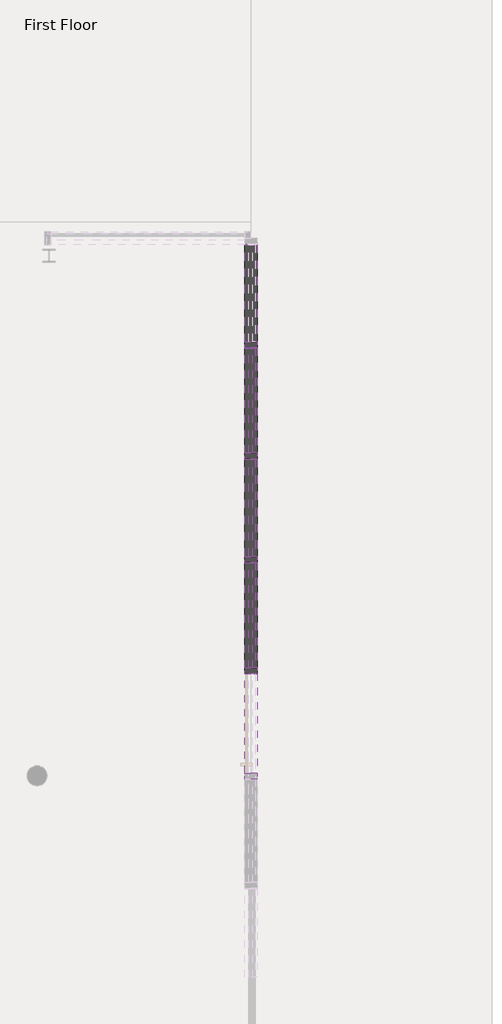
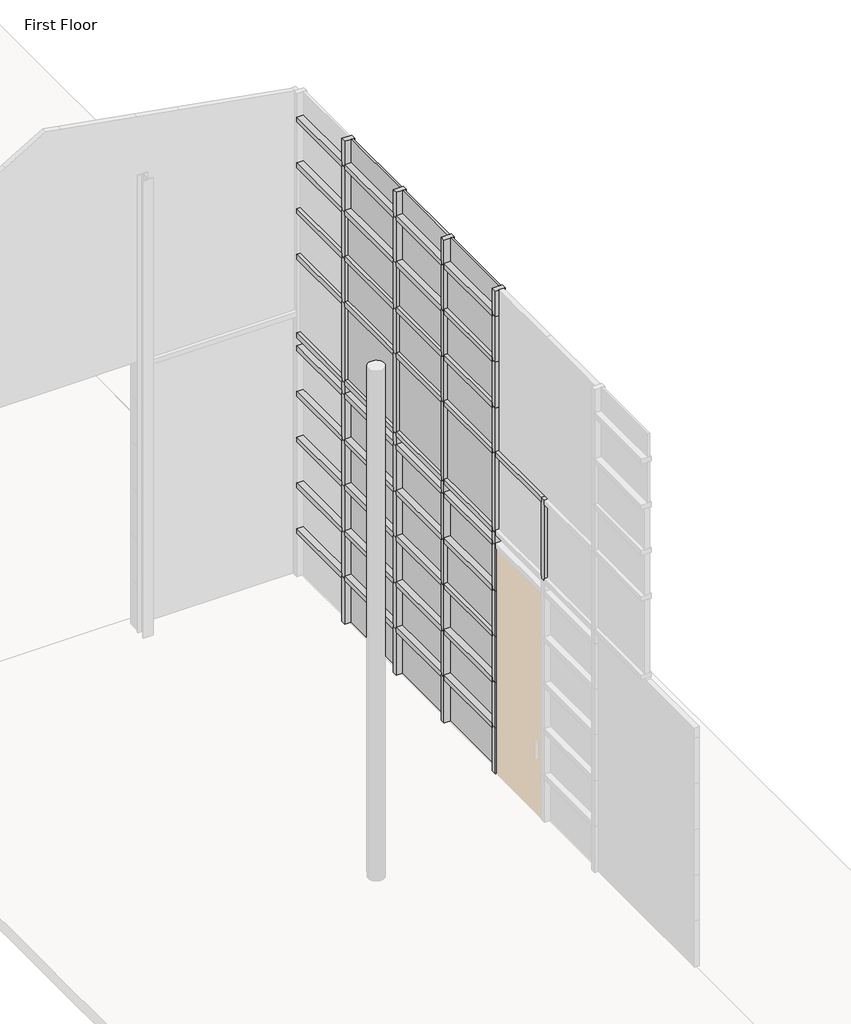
# One storey, part 6 of 9: 86 members, 33 plates.
"""IFC4 building model written with IfcOpenShell, lengths in millimetres."""

from ifc_helpers import new_model, si_unit, origin, place, context, project, spatial, transform, mapped, element, save
from components import rectangular_mullion_rectangular_mullion_1_6590179b, rectangular_mullion_rectangular_mullion_1_783bfc0b, rectangular_mullion_rectangular_mullion_1_1f17a5e5, rectangular_mullion_rectangular_mullion_1_8247c789, rectangular_mullion_rectangular_mullion_1_6e77e263, rectangular_mullion_rectangular_mullion_1_342b4b78, rectangular_mullion_rectangular_mullion_1_ec152034, rectangular_mullion_rectangular_mullion_1_158ba3e1, rectangular_mullion_rectangular_mullion_1_d7ed0fb9, rectangular_mullion_rectangular_mullion_1_f2e3b31c, system_panel_glazed_c7baee26, system_panel_glazed_10c68863, system_panel_glazed_a26f2a3d, system_panel_glazed_f3b84d7e, system_panel_glazed_9fecdc1a, system_panel_glazed_703e904c, system_panel_glazed_5698b928, system_panel_glazed_677bec21, system_panel_glazed_fd039e31, system_panel_glazed_8b3f1d98, system_panel_glazed_dff80833, system_panel_glazed_a1854eb2, system_panel_solid_red_6fdfdeec, system_panel_solid_white_afa84dc3, system_panel_solid_white_9f51102d, system_panel_solid_white_62dc0654, system_panel_wood_976f854f, system_panel_wood_6b220d8b

model = new_model("IFC4")

# Units and contexts
model_context = context("Model", 3, world=origin())
ifc_project = project(units=[si_unit("LENGTHUNIT", "METRE", prefix="MILLI")], contexts=[model_context])

# Site, building, storey
site = spatial("IfcSite", under=ifc_project)
building = spatial("IfcBuilding", under=site)
storey = spatial("IfcBuildingStorey", under=building, Name="First Floor", Elevation=0.0)

# Members
placement = place(None, origin())
rectangular_mullion_rectangular_mullion_1_shape = rectangular_mullion_rectangular_mullion_1_6590179b(model_context)
element("IfcMember", 1, ObjectType="Rectangular Mullion : Rectangular Mullion 1", at=placement, inside=storey, context=model_context, shape_type="MappedRepresentation", body=[
    mapped(rectangular_mullion_rectangular_mullion_1_shape, transform((8.2598336, 14551.2870297, 3219.3104781), x_axis=(0.0, -1.0, 0.0), y_axis=(-1.0, 0.0, 0.0), z_axis=(0.0, 0.0, -1.0))),
])
element("IfcMember", 2, ObjectType="Rectangular Mullion : Rectangular Mullion 1", at=placement, inside=storey, context=model_context, shape_type="MappedRepresentation", body=[
    mapped(rectangular_mullion_rectangular_mullion_1_shape, transform((8.2598336, 12383.2156011, 3219.3104781), x_axis=(0.0, -1.0, 0.0), y_axis=(-1.0, 0.0, 0.0), z_axis=(0.0, 0.0, -1.0))),
])
element("IfcMember", 3, ObjectType="Rectangular Mullion : Rectangular Mullion 1", at=placement, inside=storey, context=model_context, shape_type="MappedRepresentation", body=[
    mapped(rectangular_mullion_rectangular_mullion_1_shape, transform((8.2598336, 13503.5370297, 3219.3104781), x_axis=(0.0, -1.0, 0.0), y_axis=(-1.0, 0.0, 0.0), z_axis=(0.0, 0.0, -1.0))),
])
element("IfcMember", 4, ObjectType="Rectangular Mullion : Rectangular Mullion 1", at=placement, inside=storey, context=model_context, shape_type="MappedRepresentation", body=[
    mapped(rectangular_mullion_rectangular_mullion_1_shape, transform((8.2598336, 15673.8763154, 3219.3104781), x_axis=(0.0, -1.0, 0.0), y_axis=(-1.0, 0.0, 0.0), z_axis=(0.0, 0.0, -1.0))),
])
rectangular_mullion_rectangular_mullion_1_2_shape = rectangular_mullion_rectangular_mullion_1_783bfc0b(model_context)
element("IfcMember", 5, ObjectType="Rectangular Mullion : Rectangular Mullion 1", at=placement, inside=storey, context=model_context, shape_type="MappedRepresentation", body=[
    mapped(rectangular_mullion_rectangular_mullion_1_2_shape, transform((8.2598336, 15673.8763154, 3048.0), x_axis=(0.0, -1.0, 0.0), y_axis=(-1.0, 0.0, 0.0), z_axis=(0.0, 0.0, -1.0))),
])
element("IfcMember", 6, ObjectType="Rectangular Mullion : Rectangular Mullion 1", at=placement, inside=storey, context=model_context, shape_type="MappedRepresentation", body=[
    mapped(rectangular_mullion_rectangular_mullion_1_2_shape, transform((8.2598336, 14551.2870297, 3048.0), x_axis=(0.0, -1.0, 0.0), y_axis=(-1.0, 0.0, 0.0), z_axis=(0.0, 0.0, -1.0))),
])
element("IfcMember", 7, ObjectType="Rectangular Mullion : Rectangular Mullion 1", at=placement, inside=storey, context=model_context, shape_type="MappedRepresentation", body=[
    mapped(rectangular_mullion_rectangular_mullion_1_2_shape, transform((8.2598336, 13503.5370297, 3048.0), x_axis=(0.0, -1.0, 0.0), y_axis=(-1.0, 0.0, 0.0), z_axis=(0.0, 0.0, -1.0))),
])
element("IfcMember", 8, ObjectType="Rectangular Mullion : Rectangular Mullion 1", at=placement, inside=storey, context=model_context, shape_type="MappedRepresentation", body=[
    mapped(rectangular_mullion_rectangular_mullion_1_2_shape, transform((8.2598336, 12383.2156011, 3048.0), x_axis=(0.0, -1.0, 0.0), y_axis=(-1.0, 0.0, 0.0), z_axis=(0.0, 0.0, -1.0))),
])
rectangular_mullion_rectangular_mullion_1_3_shape = rectangular_mullion_rectangular_mullion_1_1f17a5e5(model_context)
element("IfcMember", 9, ObjectType="Rectangular Mullion : Rectangular Mullion 1", at=placement, inside=storey, context=model_context, shape_type="MappedRepresentation", body=[
    mapped(rectangular_mullion_rectangular_mullion_1_3_shape, transform((8.2598336, 15673.8763154, 6096.0), x_axis=(0.0, -1.0, 0.0), y_axis=(-1.0, 0.0, 0.0), z_axis=(0.0, 0.0, -1.0))),
])
element("IfcMember", 10, ObjectType="Rectangular Mullion : Rectangular Mullion 1", at=placement, inside=storey, context=model_context, shape_type="MappedRepresentation", body=[
    mapped(rectangular_mullion_rectangular_mullion_1_3_shape, transform((8.2598336, 14551.2870297, 6096.0), x_axis=(0.0, -1.0, 0.0), y_axis=(-1.0, 0.0, 0.0), z_axis=(0.0, 0.0, -1.0))),
])
element("IfcMember", 11, ObjectType="Rectangular Mullion : Rectangular Mullion 1", at=placement, inside=storey, context=model_context, shape_type="MappedRepresentation", body=[
    mapped(rectangular_mullion_rectangular_mullion_1_3_shape, transform((8.2598336, 13503.5370297, 6096.0), x_axis=(0.0, -1.0, 0.0), y_axis=(-1.0, 0.0, 0.0), z_axis=(0.0, 0.0, -1.0))),
])
element("IfcMember", 12, ObjectType="Rectangular Mullion : Rectangular Mullion 1", at=placement, inside=storey, context=model_context, shape_type="MappedRepresentation", body=[
    mapped(rectangular_mullion_rectangular_mullion_1_3_shape, transform((8.2598336, 12383.2156011, 6096.0), x_axis=(0.0, -1.0, 0.0), y_axis=(-1.0, 0.0, 0.0), z_axis=(0.0, 0.0, -1.0))),
])
rectangular_mullion_rectangular_mullion_1_4_shape = rectangular_mullion_rectangular_mullion_1_8247c789(model_context)
element("IfcMember", 13, ObjectType="Rectangular Mullion : Rectangular Mullion 1", at=placement, inside=storey, context=model_context, shape_type="MappedRepresentation", body=[
    mapped(rectangular_mullion_rectangular_mullion_1_4_shape, transform((8.2598336, 11317.322744, 3219.3104781), x_axis=(0.0, -1.0, 0.0), y_axis=(-1.0, 0.0, 0.0), z_axis=(0.0, 0.0, -1.0))),
])
rectangular_mullion_rectangular_mullion_1_5_shape = rectangular_mullion_rectangular_mullion_1_6e77e263(model_context)
element("IfcMember", 14, ObjectType="Rectangular Mullion : Rectangular Mullion 1", at=placement, inside=storey, context=model_context, shape_type="MappedRepresentation", body=[
    mapped(rectangular_mullion_rectangular_mullion_1_5_shape, transform((8.2598336, 15673.8763154, 2438.4), x_axis=(0.0, -1.0, 0.0), y_axis=(-1.0, 0.0, 0.0), z_axis=(0.0, 0.0, -1.0))),
])
element("IfcMember", 15, ObjectType="Rectangular Mullion : Rectangular Mullion 1", at=placement, inside=storey, context=model_context, shape_type="MappedRepresentation", body=[
    mapped(rectangular_mullion_rectangular_mullion_1_5_shape, transform((8.2598336, 14551.2870297, 2438.4), x_axis=(0.0, -1.0, 0.0), y_axis=(-1.0, 0.0, 0.0), z_axis=(0.0, 0.0, -1.0))),
])
element("IfcMember", 16, ObjectType="Rectangular Mullion : Rectangular Mullion 1", at=placement, inside=storey, context=model_context, shape_type="MappedRepresentation", body=[
    mapped(rectangular_mullion_rectangular_mullion_1_5_shape, transform((8.2598336, 13503.5370297, 2438.4), x_axis=(0.0, -1.0, 0.0), y_axis=(-1.0, 0.0, 0.0), z_axis=(0.0, 0.0, -1.0))),
])
element("IfcMember", 17, ObjectType="Rectangular Mullion : Rectangular Mullion 1", at=placement, inside=storey, context=model_context, shape_type="MappedRepresentation", body=[
    mapped(rectangular_mullion_rectangular_mullion_1_5_shape, transform((8.2598336, 12383.2156011, 2438.4), x_axis=(0.0, -1.0, 0.0), y_axis=(-1.0, 0.0, 0.0), z_axis=(0.0, 0.0, -1.0))),
])
element("IfcMember", 18, ObjectType="Rectangular Mullion : Rectangular Mullion 1", at=placement, inside=storey, context=model_context, shape_type="MappedRepresentation", body=[
    mapped(rectangular_mullion_rectangular_mullion_1_5_shape, transform((8.2598336, 15673.8763154, 1219.2), x_axis=(0.0, -1.0, 0.0), y_axis=(-1.0, 0.0, 0.0), z_axis=(0.0, 0.0, -1.0))),
])
element("IfcMember", 19, ObjectType="Rectangular Mullion : Rectangular Mullion 1", at=placement, inside=storey, context=model_context, shape_type="MappedRepresentation", body=[
    mapped(rectangular_mullion_rectangular_mullion_1_5_shape, transform((8.2598336, 14551.2870297, 1219.2), x_axis=(0.0, -1.0, 0.0), y_axis=(-1.0, 0.0, 0.0), z_axis=(0.0, 0.0, -1.0))),
])
element("IfcMember", 20, ObjectType="Rectangular Mullion : Rectangular Mullion 1", at=placement, inside=storey, context=model_context, shape_type="MappedRepresentation", body=[
    mapped(rectangular_mullion_rectangular_mullion_1_5_shape, transform((8.2598336, 13503.5370297, 1219.2), x_axis=(0.0, -1.0, 0.0), y_axis=(-1.0, 0.0, 0.0), z_axis=(0.0, 0.0, -1.0))),
])
element("IfcMember", 21, ObjectType="Rectangular Mullion : Rectangular Mullion 1", at=placement, inside=storey, context=model_context, shape_type="MappedRepresentation", body=[
    mapped(rectangular_mullion_rectangular_mullion_1_5_shape, transform((8.2598336, 12383.2156011, 1219.2), x_axis=(0.0, -1.0, 0.0), y_axis=(-1.0, 0.0, 0.0), z_axis=(0.0, 0.0, -1.0))),
])
element("IfcMember", 22, ObjectType="Rectangular Mullion : Rectangular Mullion 1", at=placement, inside=storey, context=model_context, shape_type="MappedRepresentation", body=[
    mapped(rectangular_mullion_rectangular_mullion_1_5_shape, transform((8.2598336, 15673.8763154, 1828.8), x_axis=(0.0, -1.0, 0.0), y_axis=(-1.0, 0.0, 0.0), z_axis=(0.0, 0.0, -1.0))),
])
element("IfcMember", 23, ObjectType="Rectangular Mullion : Rectangular Mullion 1", at=placement, inside=storey, context=model_context, shape_type="MappedRepresentation", body=[
    mapped(rectangular_mullion_rectangular_mullion_1_5_shape, transform((8.2598336, 14551.2870297, 1828.8), x_axis=(0.0, -1.0, 0.0), y_axis=(-1.0, 0.0, 0.0), z_axis=(0.0, 0.0, -1.0))),
])
element("IfcMember", 24, ObjectType="Rectangular Mullion : Rectangular Mullion 1", at=placement, inside=storey, context=model_context, shape_type="MappedRepresentation", body=[
    mapped(rectangular_mullion_rectangular_mullion_1_5_shape, transform((8.2598336, 13503.5370297, 1828.8), x_axis=(0.0, -1.0, 0.0), y_axis=(-1.0, 0.0, 0.0), z_axis=(0.0, 0.0, -1.0))),
])
element("IfcMember", 25, ObjectType="Rectangular Mullion : Rectangular Mullion 1", at=placement, inside=storey, context=model_context, shape_type="MappedRepresentation", body=[
    mapped(rectangular_mullion_rectangular_mullion_1_5_shape, transform((8.2598336, 12383.2156011, 1828.8), x_axis=(0.0, -1.0, 0.0), y_axis=(-1.0, 0.0, 0.0), z_axis=(0.0, 0.0, -1.0))),
])
element("IfcMember", 26, ObjectType="Rectangular Mullion : Rectangular Mullion 1", at=placement, inside=storey, context=model_context, shape_type="MappedRepresentation", body=[
    mapped(rectangular_mullion_rectangular_mullion_1_5_shape, transform((8.2598336, 15673.8763154, 609.6), x_axis=(0.0, -1.0, 0.0), y_axis=(-1.0, 0.0, 0.0), z_axis=(0.0, 0.0, -1.0))),
])
element("IfcMember", 27, ObjectType="Rectangular Mullion : Rectangular Mullion 1", at=placement, inside=storey, context=model_context, shape_type="MappedRepresentation", body=[
    mapped(rectangular_mullion_rectangular_mullion_1_5_shape, transform((8.2598336, 14551.2870297, 609.6), x_axis=(0.0, -1.0, 0.0), y_axis=(-1.0, 0.0, 0.0), z_axis=(0.0, 0.0, -1.0))),
])
element("IfcMember", 28, ObjectType="Rectangular Mullion : Rectangular Mullion 1", at=placement, inside=storey, context=model_context, shape_type="MappedRepresentation", body=[
    mapped(rectangular_mullion_rectangular_mullion_1_5_shape, transform((8.2598336, 13503.5370297, 609.6), x_axis=(0.0, -1.0, 0.0), y_axis=(-1.0, 0.0, 0.0), z_axis=(0.0, 0.0, -1.0))),
])
element("IfcMember", 29, ObjectType="Rectangular Mullion : Rectangular Mullion 1", at=placement, inside=storey, context=model_context, shape_type="MappedRepresentation", body=[
    mapped(rectangular_mullion_rectangular_mullion_1_5_shape, transform((8.2598336, 12383.2156011, 609.6), x_axis=(0.0, -1.0, 0.0), y_axis=(-1.0, 0.0, 0.0), z_axis=(0.0, 0.0, -1.0))),
])
element("IfcMember", 30, ObjectType="Rectangular Mullion : Rectangular Mullion 1", at=placement, inside=storey, context=model_context, shape_type="MappedRepresentation", body=[
    mapped(rectangular_mullion_rectangular_mullion_1_5_shape, transform((8.2598336, 15673.8763154, 4876.8), x_axis=(0.0, -1.0, 0.0), y_axis=(-1.0, 0.0, 0.0), z_axis=(0.0, 0.0, -1.0))),
])
element("IfcMember", 31, ObjectType="Rectangular Mullion : Rectangular Mullion 1", at=placement, inside=storey, context=model_context, shape_type="MappedRepresentation", body=[
    mapped(rectangular_mullion_rectangular_mullion_1_5_shape, transform((8.2598336, 14551.2870297, 4876.8), x_axis=(0.0, -1.0, 0.0), y_axis=(-1.0, 0.0, 0.0), z_axis=(0.0, 0.0, -1.0))),
])
element("IfcMember", 32, ObjectType="Rectangular Mullion : Rectangular Mullion 1", at=placement, inside=storey, context=model_context, shape_type="MappedRepresentation", body=[
    mapped(rectangular_mullion_rectangular_mullion_1_5_shape, transform((8.2598336, 13503.5370297, 4876.8), x_axis=(0.0, -1.0, 0.0), y_axis=(-1.0, 0.0, 0.0), z_axis=(0.0, 0.0, -1.0))),
])
element("IfcMember", 33, ObjectType="Rectangular Mullion : Rectangular Mullion 1", at=placement, inside=storey, context=model_context, shape_type="MappedRepresentation", body=[
    mapped(rectangular_mullion_rectangular_mullion_1_5_shape, transform((8.2598336, 12383.2156011, 4876.8), x_axis=(0.0, -1.0, 0.0), y_axis=(-1.0, 0.0, 0.0), z_axis=(0.0, 0.0, -1.0))),
])
element("IfcMember", 34, ObjectType="Rectangular Mullion : Rectangular Mullion 1", at=placement, inside=storey, context=model_context, shape_type="MappedRepresentation", body=[
    mapped(rectangular_mullion_rectangular_mullion_1_5_shape, transform((8.2598336, 15673.8763154, 5486.4), x_axis=(0.0, -1.0, 0.0), y_axis=(-1.0, 0.0, 0.0), z_axis=(0.0, 0.0, -1.0))),
])
element("IfcMember", 35, ObjectType="Rectangular Mullion : Rectangular Mullion 1", at=placement, inside=storey, context=model_context, shape_type="MappedRepresentation", body=[
    mapped(rectangular_mullion_rectangular_mullion_1_5_shape, transform((8.2598336, 14551.2870297, 5486.4), x_axis=(0.0, -1.0, 0.0), y_axis=(-1.0, 0.0, 0.0), z_axis=(0.0, 0.0, -1.0))),
])
element("IfcMember", 36, ObjectType="Rectangular Mullion : Rectangular Mullion 1", at=placement, inside=storey, context=model_context, shape_type="MappedRepresentation", body=[
    mapped(rectangular_mullion_rectangular_mullion_1_5_shape, transform((8.2598336, 13503.5370297, 5486.4), x_axis=(0.0, -1.0, 0.0), y_axis=(-1.0, 0.0, 0.0), z_axis=(0.0, 0.0, -1.0))),
])
element("IfcMember", 37, ObjectType="Rectangular Mullion : Rectangular Mullion 1", at=placement, inside=storey, context=model_context, shape_type="MappedRepresentation", body=[
    mapped(rectangular_mullion_rectangular_mullion_1_5_shape, transform((8.2598336, 12383.2156011, 5486.4), x_axis=(0.0, -1.0, 0.0), y_axis=(-1.0, 0.0, 0.0), z_axis=(0.0, 0.0, -1.0))),
])
element("IfcMember", 38, ObjectType="Rectangular Mullion : Rectangular Mullion 1", at=placement, inside=storey, context=model_context, shape_type="MappedRepresentation", body=[
    mapped(rectangular_mullion_rectangular_mullion_1_5_shape, transform((8.2598336, 15673.8763154, 4267.2), x_axis=(0.0, -1.0, 0.0), y_axis=(-1.0, 0.0, 0.0), z_axis=(0.0, 0.0, -1.0))),
])
element("IfcMember", 39, ObjectType="Rectangular Mullion : Rectangular Mullion 1", at=placement, inside=storey, context=model_context, shape_type="MappedRepresentation", body=[
    mapped(rectangular_mullion_rectangular_mullion_1_5_shape, transform((8.2598336, 14551.2870297, 4267.2), x_axis=(0.0, -1.0, 0.0), y_axis=(-1.0, 0.0, 0.0), z_axis=(0.0, 0.0, -1.0))),
])
element("IfcMember", 40, ObjectType="Rectangular Mullion : Rectangular Mullion 1", at=placement, inside=storey, context=model_context, shape_type="MappedRepresentation", body=[
    mapped(rectangular_mullion_rectangular_mullion_1_5_shape, transform((8.2598336, 13503.5370297, 4267.2), x_axis=(0.0, -1.0, 0.0), y_axis=(-1.0, 0.0, 0.0), z_axis=(0.0, 0.0, -1.0))),
])
element("IfcMember", 41, ObjectType="Rectangular Mullion : Rectangular Mullion 1", at=placement, inside=storey, context=model_context, shape_type="MappedRepresentation", body=[
    mapped(rectangular_mullion_rectangular_mullion_1_5_shape, transform((8.2598336, 12383.2156011, 4267.2), x_axis=(0.0, -1.0, 0.0), y_axis=(-1.0, 0.0, 0.0), z_axis=(0.0, 0.0, -1.0))),
])
element("IfcMember", 42, ObjectType="Rectangular Mullion : Rectangular Mullion 1", at=placement, inside=storey, context=model_context, shape_type="MappedRepresentation", body=[
    mapped(rectangular_mullion_rectangular_mullion_1_5_shape, transform((8.2598336, 14551.2870297, 0.0), x_axis=(0.0, -1.0, 0.0), y_axis=(-1.0, 0.0, 0.0), z_axis=(0.0, 0.0, -1.0))),
])
element("IfcMember", 43, ObjectType="Rectangular Mullion : Rectangular Mullion 1", at=placement, inside=storey, context=model_context, shape_type="MappedRepresentation", body=[
    mapped(rectangular_mullion_rectangular_mullion_1_5_shape, transform((8.2598336, 12383.2156011, 0.0), x_axis=(0.0, -1.0, 0.0), y_axis=(-1.0, 0.0, 0.0), z_axis=(0.0, 0.0, -1.0))),
])
element("IfcMember", 44, ObjectType="Rectangular Mullion : Rectangular Mullion 1", at=placement, inside=storey, context=model_context, shape_type="MappedRepresentation", body=[
    mapped(rectangular_mullion_rectangular_mullion_1_5_shape, transform((8.2598336, 13503.5370297, 0.0), x_axis=(0.0, -1.0, 0.0), y_axis=(-1.0, 0.0, 0.0), z_axis=(0.0, 0.0, -1.0))),
])
element("IfcMember", 45, ObjectType="Rectangular Mullion : Rectangular Mullion 1", at=placement, inside=storey, context=model_context, shape_type="MappedRepresentation", body=[
    mapped(rectangular_mullion_rectangular_mullion_1_5_shape, transform((8.2598336, 15673.8763154, 0.0), x_axis=(0.0, -1.0, 0.0), y_axis=(-1.0, 0.0, 0.0), z_axis=(0.0, 0.0, -1.0))),
])
rectangular_mullion_rectangular_mullion_1_6_shape = rectangular_mullion_rectangular_mullion_1_342b4b78(model_context)
element("IfcMember", 46, ObjectType="Rectangular Mullion : Rectangular Mullion 1", at=placement, inside=storey, context=model_context, shape_type="MappedRepresentation", body=[
    mapped(rectangular_mullion_rectangular_mullion_1_6_shape, transform((8.2598336, 13535.2870297, 3219.3104781), x_axis=(0.0, 0.0, 1.0), y_axis=(-1.0, 0.0, 0.0), z_axis=(0.0, -1.0, 0.0))),
])
element("IfcMember", 47, ObjectType="Rectangular Mullion : Rectangular Mullion 1", at=placement, inside=storey, context=model_context, shape_type="MappedRepresentation", body=[
    mapped(rectangular_mullion_rectangular_mullion_1_6_shape, transform((8.2598336, 13535.2870297, 2438.4), x_axis=(0.0, 0.0, 1.0), y_axis=(-1.0, 0.0, 0.0), z_axis=(0.0, -1.0, 0.0))),
])
element("IfcMember", 48, ObjectType="Rectangular Mullion : Rectangular Mullion 1", at=placement, inside=storey, context=model_context, shape_type="MappedRepresentation", body=[
    mapped(rectangular_mullion_rectangular_mullion_1_6_shape, transform((8.2598336, 13535.2870297, 1219.2), x_axis=(0.0, 0.0, 1.0), y_axis=(-1.0, 0.0, 0.0), z_axis=(0.0, -1.0, 0.0))),
])
element("IfcMember", 49, ObjectType="Rectangular Mullion : Rectangular Mullion 1", at=placement, inside=storey, context=model_context, shape_type="MappedRepresentation", body=[
    mapped(rectangular_mullion_rectangular_mullion_1_6_shape, transform((8.2598336, 13535.2870297, 3048.0), x_axis=(0.0, 0.0, 1.0), y_axis=(-1.0, 0.0, 0.0), z_axis=(0.0, -1.0, 0.0))),
])
element("IfcMember", 50, ObjectType="Rectangular Mullion : Rectangular Mullion 1", at=placement, inside=storey, context=model_context, shape_type="MappedRepresentation", body=[
    mapped(rectangular_mullion_rectangular_mullion_1_6_shape, transform((8.2598336, 13535.2870297, 1828.8), x_axis=(0.0, 0.0, 1.0), y_axis=(-1.0, 0.0, 0.0), z_axis=(0.0, -1.0, 0.0))),
])
element("IfcMember", 51, ObjectType="Rectangular Mullion : Rectangular Mullion 1", at=placement, inside=storey, context=model_context, shape_type="MappedRepresentation", body=[
    mapped(rectangular_mullion_rectangular_mullion_1_6_shape, transform((8.2598336, 13535.2870297, 609.6), x_axis=(0.0, 0.0, 1.0), y_axis=(-1.0, 0.0, 0.0), z_axis=(0.0, -1.0, 0.0))),
])
element("IfcMember", 52, ObjectType="Rectangular Mullion : Rectangular Mullion 1", at=placement, inside=storey, context=model_context, shape_type="MappedRepresentation", body=[
    mapped(rectangular_mullion_rectangular_mullion_1_6_shape, transform((8.2598336, 13535.2870297, 6096.0), x_axis=(0.0, 0.0, 1.0), y_axis=(-1.0, 0.0, 0.0), z_axis=(0.0, -1.0, 0.0))),
])
element("IfcMember", 53, ObjectType="Rectangular Mullion : Rectangular Mullion 1", at=placement, inside=storey, context=model_context, shape_type="MappedRepresentation", body=[
    mapped(rectangular_mullion_rectangular_mullion_1_6_shape, transform((8.2598336, 13535.2870297, 4876.8), x_axis=(0.0, 0.0, 1.0), y_axis=(-1.0, 0.0, 0.0), z_axis=(0.0, -1.0, 0.0))),
])
element("IfcMember", 54, ObjectType="Rectangular Mullion : Rectangular Mullion 1", at=placement, inside=storey, context=model_context, shape_type="MappedRepresentation", body=[
    mapped(rectangular_mullion_rectangular_mullion_1_6_shape, transform((8.2598336, 13535.2870297, 5486.4), x_axis=(0.0, 0.0, 1.0), y_axis=(-1.0, 0.0, 0.0), z_axis=(0.0, -1.0, 0.0))),
])
element("IfcMember", 55, ObjectType="Rectangular Mullion : Rectangular Mullion 1", at=placement, inside=storey, context=model_context, shape_type="MappedRepresentation", body=[
    mapped(rectangular_mullion_rectangular_mullion_1_6_shape, transform((8.2598336, 13535.2870297, 4267.2), x_axis=(0.0, 0.0, 1.0), y_axis=(-1.0, 0.0, 0.0), z_axis=(0.0, -1.0, 0.0))),
])
rectangular_mullion_rectangular_mullion_1_7_shape = rectangular_mullion_rectangular_mullion_1_ec152034(model_context)
element("IfcMember", 56, ObjectType="Rectangular Mullion : Rectangular Mullion 1", at=placement, inside=storey, context=model_context, shape_type="MappedRepresentation", body=[
    mapped(rectangular_mullion_rectangular_mullion_1_7_shape, transform((8.2598336, 11349.072744, 4267.2), x_axis=(0.0, 0.0, 1.0), y_axis=(-1.0, 0.0, 0.0), z_axis=(0.0, -1.0, 0.0))),
])
rectangular_mullion_rectangular_mullion_1_8_shape = rectangular_mullion_rectangular_mullion_1_158ba3e1(model_context)
element("IfcMember", 57, ObjectType="Rectangular Mullion : Rectangular Mullion 1", at=placement, inside=storey, context=model_context, shape_type="MappedRepresentation", body=[
    mapped(rectangular_mullion_rectangular_mullion_1_8_shape, transform((8.2598336, 12414.9656011, 3219.3104781), x_axis=(0.0, 0.0, 1.0), y_axis=(-1.0, 0.0, 0.0), z_axis=(0.0, -1.0, 0.0))),
])
element("IfcMember", 58, ObjectType="Rectangular Mullion : Rectangular Mullion 1", at=placement, inside=storey, context=model_context, shape_type="MappedRepresentation", body=[
    mapped(rectangular_mullion_rectangular_mullion_1_8_shape, transform((8.2598336, 12414.9656011, 2438.4), x_axis=(0.0, 0.0, 1.0), y_axis=(-1.0, 0.0, 0.0), z_axis=(0.0, -1.0, 0.0))),
])
element("IfcMember", 59, ObjectType="Rectangular Mullion : Rectangular Mullion 1", at=placement, inside=storey, context=model_context, shape_type="MappedRepresentation", body=[
    mapped(rectangular_mullion_rectangular_mullion_1_8_shape, transform((8.2598336, 12414.9656011, 1219.2), x_axis=(0.0, 0.0, 1.0), y_axis=(-1.0, 0.0, 0.0), z_axis=(0.0, -1.0, 0.0))),
])
element("IfcMember", 60, ObjectType="Rectangular Mullion : Rectangular Mullion 1", at=placement, inside=storey, context=model_context, shape_type="MappedRepresentation", body=[
    mapped(rectangular_mullion_rectangular_mullion_1_8_shape, transform((8.2598336, 12414.9656011, 3048.0), x_axis=(0.0, 0.0, 1.0), y_axis=(-1.0, 0.0, 0.0), z_axis=(0.0, -1.0, 0.0))),
])
element("IfcMember", 61, ObjectType="Rectangular Mullion : Rectangular Mullion 1", at=placement, inside=storey, context=model_context, shape_type="MappedRepresentation", body=[
    mapped(rectangular_mullion_rectangular_mullion_1_8_shape, transform((8.2598336, 12414.9656011, 1828.8), x_axis=(0.0, 0.0, 1.0), y_axis=(-1.0, 0.0, 0.0), z_axis=(0.0, -1.0, 0.0))),
])
element("IfcMember", 62, ObjectType="Rectangular Mullion : Rectangular Mullion 1", at=placement, inside=storey, context=model_context, shape_type="MappedRepresentation", body=[
    mapped(rectangular_mullion_rectangular_mullion_1_8_shape, transform((8.2598336, 12414.9656011, 609.6), x_axis=(0.0, 0.0, 1.0), y_axis=(-1.0, 0.0, 0.0), z_axis=(0.0, -1.0, 0.0))),
])
element("IfcMember", 63, ObjectType="Rectangular Mullion : Rectangular Mullion 1", at=placement, inside=storey, context=model_context, shape_type="MappedRepresentation", body=[
    mapped(rectangular_mullion_rectangular_mullion_1_8_shape, transform((8.2598336, 12414.9656011, 6096.0), x_axis=(0.0, 0.0, 1.0), y_axis=(-1.0, 0.0, 0.0), z_axis=(0.0, -1.0, 0.0))),
])
element("IfcMember", 64, ObjectType="Rectangular Mullion : Rectangular Mullion 1", at=placement, inside=storey, context=model_context, shape_type="MappedRepresentation", body=[
    mapped(rectangular_mullion_rectangular_mullion_1_8_shape, transform((8.2598336, 12414.9656011, 4876.8), x_axis=(0.0, 0.0, 1.0), y_axis=(-1.0, 0.0, 0.0), z_axis=(0.0, -1.0, 0.0))),
])
element("IfcMember", 65, ObjectType="Rectangular Mullion : Rectangular Mullion 1", at=placement, inside=storey, context=model_context, shape_type="MappedRepresentation", body=[
    mapped(rectangular_mullion_rectangular_mullion_1_8_shape, transform((8.2598336, 12414.9656011, 5486.4), x_axis=(0.0, 0.0, 1.0), y_axis=(-1.0, 0.0, 0.0), z_axis=(0.0, -1.0, 0.0))),
])
element("IfcMember", 66, ObjectType="Rectangular Mullion : Rectangular Mullion 1", at=placement, inside=storey, context=model_context, shape_type="MappedRepresentation", body=[
    mapped(rectangular_mullion_rectangular_mullion_1_8_shape, transform((8.2598336, 12414.9656011, 4267.2), x_axis=(0.0, 0.0, 1.0), y_axis=(-1.0, 0.0, 0.0), z_axis=(0.0, -1.0, 0.0))),
])
rectangular_mullion_rectangular_mullion_1_9_shape = rectangular_mullion_rectangular_mullion_1_d7ed0fb9(model_context)
element("IfcMember", 67, ObjectType="Rectangular Mullion : Rectangular Mullion 1", at=placement, inside=storey, context=model_context, shape_type="MappedRepresentation", body=[
    mapped(rectangular_mullion_rectangular_mullion_1_9_shape, transform((8.2598336, 15705.6263154, 3219.3104781), x_axis=(0.0, 0.0, 1.0), y_axis=(-1.0, 0.0, 0.0), z_axis=(0.0, -1.0, 0.0))),
])
element("IfcMember", 68, ObjectType="Rectangular Mullion : Rectangular Mullion 1", at=placement, inside=storey, context=model_context, shape_type="MappedRepresentation", body=[
    mapped(rectangular_mullion_rectangular_mullion_1_9_shape, transform((8.2598336, 15705.6263154, 2438.4), x_axis=(0.0, 0.0, 1.0), y_axis=(-1.0, 0.0, 0.0), z_axis=(0.0, -1.0, 0.0))),
])
element("IfcMember", 69, ObjectType="Rectangular Mullion : Rectangular Mullion 1", at=placement, inside=storey, context=model_context, shape_type="MappedRepresentation", body=[
    mapped(rectangular_mullion_rectangular_mullion_1_9_shape, transform((8.2598336, 15705.6263154, 1219.2), x_axis=(0.0, 0.0, 1.0), y_axis=(-1.0, 0.0, 0.0), z_axis=(0.0, -1.0, 0.0))),
])
element("IfcMember", 70, ObjectType="Rectangular Mullion : Rectangular Mullion 1", at=placement, inside=storey, context=model_context, shape_type="MappedRepresentation", body=[
    mapped(rectangular_mullion_rectangular_mullion_1_9_shape, transform((8.2598336, 15705.6263154, 3048.0), x_axis=(0.0, 0.0, 1.0), y_axis=(-1.0, 0.0, 0.0), z_axis=(0.0, -1.0, 0.0))),
])
element("IfcMember", 71, ObjectType="Rectangular Mullion : Rectangular Mullion 1", at=placement, inside=storey, context=model_context, shape_type="MappedRepresentation", body=[
    mapped(rectangular_mullion_rectangular_mullion_1_9_shape, transform((8.2598336, 15705.6263154, 1828.8), x_axis=(0.0, 0.0, 1.0), y_axis=(-1.0, 0.0, 0.0), z_axis=(0.0, -1.0, 0.0))),
])
element("IfcMember", 72, ObjectType="Rectangular Mullion : Rectangular Mullion 1", at=placement, inside=storey, context=model_context, shape_type="MappedRepresentation", body=[
    mapped(rectangular_mullion_rectangular_mullion_1_9_shape, transform((8.2598336, 15705.6263154, 609.6), x_axis=(0.0, 0.0, 1.0), y_axis=(-1.0, 0.0, 0.0), z_axis=(0.0, -1.0, 0.0))),
])
element("IfcMember", 73, ObjectType="Rectangular Mullion : Rectangular Mullion 1", at=placement, inside=storey, context=model_context, shape_type="MappedRepresentation", body=[
    mapped(rectangular_mullion_rectangular_mullion_1_9_shape, transform((8.2598336, 15705.6263154, 6096.0), x_axis=(0.0, 0.0, 1.0), y_axis=(-1.0, 0.0, 0.0), z_axis=(0.0, -1.0, 0.0))),
])
element("IfcMember", 74, ObjectType="Rectangular Mullion : Rectangular Mullion 1", at=placement, inside=storey, context=model_context, shape_type="MappedRepresentation", body=[
    mapped(rectangular_mullion_rectangular_mullion_1_9_shape, transform((8.2598336, 15705.6263154, 4876.8), x_axis=(0.0, 0.0, 1.0), y_axis=(-1.0, 0.0, 0.0), z_axis=(0.0, -1.0, 0.0))),
])
element("IfcMember", 75, ObjectType="Rectangular Mullion : Rectangular Mullion 1", at=placement, inside=storey, context=model_context, shape_type="MappedRepresentation", body=[
    mapped(rectangular_mullion_rectangular_mullion_1_9_shape, transform((8.2598336, 15705.6263154, 5486.4), x_axis=(0.0, 0.0, 1.0), y_axis=(-1.0, 0.0, 0.0), z_axis=(0.0, -1.0, 0.0))),
])
element("IfcMember", 76, ObjectType="Rectangular Mullion : Rectangular Mullion 1", at=placement, inside=storey, context=model_context, shape_type="MappedRepresentation", body=[
    mapped(rectangular_mullion_rectangular_mullion_1_9_shape, transform((8.2598336, 15705.6263154, 4267.2), x_axis=(0.0, 0.0, 1.0), y_axis=(-1.0, 0.0, 0.0), z_axis=(0.0, -1.0, 0.0))),
])
rectangular_mullion_rectangular_mullion_1_10_shape = rectangular_mullion_rectangular_mullion_1_f2e3b31c(model_context)
element("IfcMember", 77, ObjectType="Rectangular Mullion : Rectangular Mullion 1", at=placement, inside=storey, context=model_context, shape_type="MappedRepresentation", body=[
    mapped(rectangular_mullion_rectangular_mullion_1_10_shape, transform((8.2598336, 14583.0370297, 3219.3104781), x_axis=(0.0, 0.0, 1.0), y_axis=(-1.0, 0.0, 0.0), z_axis=(0.0, -1.0, 0.0))),
])
element("IfcMember", 78, ObjectType="Rectangular Mullion : Rectangular Mullion 1", at=placement, inside=storey, context=model_context, shape_type="MappedRepresentation", body=[
    mapped(rectangular_mullion_rectangular_mullion_1_10_shape, transform((8.2598336, 14583.0370297, 2438.4), x_axis=(0.0, 0.0, 1.0), y_axis=(-1.0, 0.0, 0.0), z_axis=(0.0, -1.0, 0.0))),
])
element("IfcMember", 79, ObjectType="Rectangular Mullion : Rectangular Mullion 1", at=placement, inside=storey, context=model_context, shape_type="MappedRepresentation", body=[
    mapped(rectangular_mullion_rectangular_mullion_1_10_shape, transform((8.2598336, 14583.0370297, 1219.2), x_axis=(0.0, 0.0, 1.0), y_axis=(-1.0, 0.0, 0.0), z_axis=(0.0, -1.0, 0.0))),
])
element("IfcMember", 80, ObjectType="Rectangular Mullion : Rectangular Mullion 1", at=placement, inside=storey, context=model_context, shape_type="MappedRepresentation", body=[
    mapped(rectangular_mullion_rectangular_mullion_1_10_shape, transform((8.2598336, 14583.0370297, 3048.0), x_axis=(0.0, 0.0, 1.0), y_axis=(-1.0, 0.0, 0.0), z_axis=(0.0, -1.0, 0.0))),
])
element("IfcMember", 81, ObjectType="Rectangular Mullion : Rectangular Mullion 1", at=placement, inside=storey, context=model_context, shape_type="MappedRepresentation", body=[
    mapped(rectangular_mullion_rectangular_mullion_1_10_shape, transform((8.2598336, 14583.0370297, 1828.8), x_axis=(0.0, 0.0, 1.0), y_axis=(-1.0, 0.0, 0.0), z_axis=(0.0, -1.0, 0.0))),
])
element("IfcMember", 82, ObjectType="Rectangular Mullion : Rectangular Mullion 1", at=placement, inside=storey, context=model_context, shape_type="MappedRepresentation", body=[
    mapped(rectangular_mullion_rectangular_mullion_1_10_shape, transform((8.2598336, 14583.0370297, 609.6), x_axis=(0.0, 0.0, 1.0), y_axis=(-1.0, 0.0, 0.0), z_axis=(0.0, -1.0, 0.0))),
])
element("IfcMember", 83, ObjectType="Rectangular Mullion : Rectangular Mullion 1", at=placement, inside=storey, context=model_context, shape_type="MappedRepresentation", body=[
    mapped(rectangular_mullion_rectangular_mullion_1_10_shape, transform((8.2598336, 14583.0370297, 6096.0), x_axis=(0.0, 0.0, 1.0), y_axis=(-1.0, 0.0, 0.0), z_axis=(0.0, -1.0, 0.0))),
])
element("IfcMember", 84, ObjectType="Rectangular Mullion : Rectangular Mullion 1", at=placement, inside=storey, context=model_context, shape_type="MappedRepresentation", body=[
    mapped(rectangular_mullion_rectangular_mullion_1_10_shape, transform((8.2598336, 14583.0370297, 4876.8), x_axis=(0.0, 0.0, 1.0), y_axis=(-1.0, 0.0, 0.0), z_axis=(0.0, -1.0, 0.0))),
])
element("IfcMember", 85, ObjectType="Rectangular Mullion : Rectangular Mullion 1", at=placement, inside=storey, context=model_context, shape_type="MappedRepresentation", body=[
    mapped(rectangular_mullion_rectangular_mullion_1_10_shape, transform((8.2598336, 14583.0370297, 5486.4), x_axis=(0.0, 0.0, 1.0), y_axis=(-1.0, 0.0, 0.0), z_axis=(0.0, -1.0, 0.0))),
])
element("IfcMember", 86, ObjectType="Rectangular Mullion : Rectangular Mullion 1", at=placement, inside=storey, context=model_context, shape_type="MappedRepresentation", body=[
    mapped(rectangular_mullion_rectangular_mullion_1_10_shape, transform((8.2598336, 14583.0370297, 4267.2), x_axis=(0.0, 0.0, 1.0), y_axis=(-1.0, 0.0, 0.0), z_axis=(0.0, -1.0, 0.0))),
])

# Plates
system_panel_glazed_shape = system_panel_glazed_c7baee26(model_context)
element("IfcPlate", 87, ObjectType="System Panel : Glazed", at=placement, inside=storey, context=model_context, shape_type="MappedRepresentation", body=[
    mapped(system_panel_glazed_shape, transform((8.2598336, 15112.5816726, 3079.75), x_axis=(0.0, -1.0, 0.0), y_axis=(1.0, 0.0, 0.0), z_axis=(0.0, 0.0, 1.0))),
])
system_panel_glazed_2_shape = system_panel_glazed_10c68863(model_context)
element("IfcPlate", 88, ObjectType="System Panel : Glazed", at=placement, inside=storey, context=model_context, shape_type="MappedRepresentation", body=[
    mapped(system_panel_glazed_2_shape, transform((8.2598336, 14027.4120297, 3079.75), x_axis=(0.0, -1.0, 0.0), y_axis=(1.0, 0.0, 0.0), z_axis=(0.0, 0.0, 1.0))),
])
system_panel_glazed_3_shape = system_panel_glazed_a26f2a3d(model_context)
element("IfcPlate", 89, ObjectType="System Panel : Glazed", at=placement, inside=storey, context=model_context, shape_type="MappedRepresentation", body=[
    mapped(system_panel_glazed_3_shape, transform((8.2598336, 12943.3763154, 3079.75), x_axis=(0.0, -1.0, 0.0), y_axis=(1.0, 0.0, 0.0), z_axis=(0.0, 0.0, 1.0))),
])
system_panel_glazed_4_shape = system_panel_glazed_f3b84d7e(model_context)
element("IfcPlate", 90, ObjectType="System Panel : Glazed", at=placement, inside=storey, context=model_context, shape_type="MappedRepresentation", body=[
    mapped(system_panel_glazed_4_shape, transform((8.2598336, 15112.5816726, 6127.75), x_axis=(0.0, -1.0, 0.0), y_axis=(1.0, 0.0, 0.0), z_axis=(0.0, 0.0, 1.0))),
])
system_panel_glazed_5_shape = system_panel_glazed_9fecdc1a(model_context)
element("IfcPlate", 91, ObjectType="System Panel : Glazed", at=placement, inside=storey, context=model_context, shape_type="MappedRepresentation", body=[
    mapped(system_panel_glazed_5_shape, transform((8.2598336, 14027.4120297, 6127.75), x_axis=(0.0, -1.0, 0.0), y_axis=(1.0, 0.0, 0.0), z_axis=(0.0, 0.0, 1.0))),
])
system_panel_glazed_6_shape = system_panel_glazed_703e904c(model_context)
element("IfcPlate", 92, ObjectType="System Panel : Glazed", at=placement, inside=storey, context=model_context, shape_type="MappedRepresentation", body=[
    mapped(system_panel_glazed_6_shape, transform((8.2598336, 12943.3763154, 6127.75), x_axis=(0.0, -1.0, 0.0), y_axis=(1.0, 0.0, 0.0), z_axis=(0.0, 0.0, 1.0))),
])
system_panel_glazed_7_shape = system_panel_glazed_5698b928(model_context)
element("IfcPlate", 93, ObjectType="System Panel : Glazed", at=placement, inside=storey, context=model_context, shape_type="MappedRepresentation", body=[
    mapped(system_panel_glazed_7_shape, transform((8.2598336, 14027.4120297, 0.0), x_axis=(0.0, -1.0, 0.0), y_axis=(1.0, 0.0, 0.0), z_axis=(0.0, 0.0, 1.0))),
])
system_panel_glazed_8_shape = system_panel_glazed_677bec21(model_context)
element("IfcPlate", 94, ObjectType="System Panel : Glazed", at=placement, inside=storey, context=model_context, shape_type="MappedRepresentation", body=[
    mapped(system_panel_glazed_8_shape, transform((8.2598336, 14027.4120297, 2470.15), x_axis=(0.0, -1.0, 0.0), y_axis=(1.0, 0.0, 0.0), z_axis=(0.0, 0.0, 1.0))),
])
element("IfcPlate", 95, ObjectType="System Panel : Glazed", at=placement, inside=storey, context=model_context, shape_type="MappedRepresentation", body=[
    mapped(system_panel_glazed_8_shape, transform((8.2598336, 14027.4120297, 1250.95), x_axis=(0.0, -1.0, 0.0), y_axis=(1.0, 0.0, 0.0), z_axis=(0.0, 0.0, 1.0))),
])
element("IfcPlate", 96, ObjectType="System Panel : Glazed", at=placement, inside=storey, context=model_context, shape_type="MappedRepresentation", body=[
    mapped(system_panel_glazed_8_shape, transform((8.2598336, 14027.4120297, 1860.55), x_axis=(0.0, -1.0, 0.0), y_axis=(1.0, 0.0, 0.0), z_axis=(0.0, 0.0, 1.0))),
])
element("IfcPlate", 97, ObjectType="System Panel : Glazed", at=placement, inside=storey, context=model_context, shape_type="MappedRepresentation", body=[
    mapped(system_panel_glazed_8_shape, transform((8.2598336, 14027.4120297, 641.35), x_axis=(0.0, -1.0, 0.0), y_axis=(1.0, 0.0, 0.0), z_axis=(0.0, 0.0, 1.0))),
])
element("IfcPlate", 98, ObjectType="System Panel : Glazed", at=placement, inside=storey, context=model_context, shape_type="MappedRepresentation", body=[
    mapped(system_panel_glazed_8_shape, transform((8.2598336, 14027.4120297, 5518.15), x_axis=(0.0, -1.0, 0.0), y_axis=(1.0, 0.0, 0.0), z_axis=(0.0, 0.0, 1.0))),
])
system_panel_glazed_9_shape = system_panel_glazed_fd039e31(model_context)
element("IfcPlate", 99, ObjectType="System Panel : Glazed", at=placement, inside=storey, context=model_context, shape_type="MappedRepresentation", body=[
    mapped(system_panel_glazed_9_shape, transform((8.2598336, 12943.3763154, 2470.15), x_axis=(0.0, -1.0, 0.0), y_axis=(1.0, 0.0, 0.0), z_axis=(0.0, 0.0, 1.0))),
])
element("IfcPlate", 100, ObjectType="System Panel : Glazed", at=placement, inside=storey, context=model_context, shape_type="MappedRepresentation", body=[
    mapped(system_panel_glazed_9_shape, transform((8.2598336, 12943.3763154, 1250.95), x_axis=(0.0, -1.0, 0.0), y_axis=(1.0, 0.0, 0.0), z_axis=(0.0, 0.0, 1.0))),
])
element("IfcPlate", 101, ObjectType="System Panel : Glazed", at=placement, inside=storey, context=model_context, shape_type="MappedRepresentation", body=[
    mapped(system_panel_glazed_9_shape, transform((8.2598336, 12943.3763154, 641.35), x_axis=(0.0, -1.0, 0.0), y_axis=(1.0, 0.0, 0.0), z_axis=(0.0, 0.0, 1.0))),
])
system_panel_glazed_10_shape = system_panel_glazed_8b3f1d98(model_context)
element("IfcPlate", 102, ObjectType="System Panel : Glazed", at=placement, inside=storey, context=model_context, shape_type="MappedRepresentation", body=[
    mapped(system_panel_glazed_10_shape, transform((8.2598336, 12943.3763154, 0.0), x_axis=(0.0, -1.0, 0.0), y_axis=(1.0, 0.0, 0.0), z_axis=(0.0, 0.0, 1.0))),
])
system_panel_glazed_11_shape = system_panel_glazed_dff80833(model_context)
element("IfcPlate", 103, ObjectType="System Panel : Glazed", at=placement, inside=storey, context=model_context, shape_type="MappedRepresentation", body=[
    mapped(system_panel_glazed_11_shape, transform((8.2598336, 15112.5816726, 0.0), x_axis=(0.0, -1.0, 0.0), y_axis=(1.0, 0.0, 0.0), z_axis=(0.0, 0.0, 1.0))),
])
system_panel_glazed_12_shape = system_panel_glazed_a1854eb2(model_context)
element("IfcPlate", 104, ObjectType="System Panel : Glazed", at=placement, inside=storey, context=model_context, shape_type="MappedRepresentation", body=[
    mapped(system_panel_glazed_12_shape, transform((8.2598336, 15112.5816726, 2470.15), x_axis=(0.0, -1.0, 0.0), y_axis=(1.0, 0.0, 0.0), z_axis=(0.0, 0.0, 1.0))),
])
element("IfcPlate", 105, ObjectType="System Panel : Glazed", at=placement, inside=storey, context=model_context, shape_type="MappedRepresentation", body=[
    mapped(system_panel_glazed_12_shape, transform((8.2598336, 15112.5816726, 1250.95), x_axis=(0.0, -1.0, 0.0), y_axis=(1.0, 0.0, 0.0), z_axis=(0.0, 0.0, 1.0))),
])
element("IfcPlate", 106, ObjectType="System Panel : Glazed", at=placement, inside=storey, context=model_context, shape_type="MappedRepresentation", body=[
    mapped(system_panel_glazed_12_shape, transform((8.2598336, 15112.5816726, 1860.55), x_axis=(0.0, -1.0, 0.0), y_axis=(1.0, 0.0, 0.0), z_axis=(0.0, 0.0, 1.0))),
])
element("IfcPlate", 107, ObjectType="System Panel : Glazed", at=placement, inside=storey, context=model_context, shape_type="MappedRepresentation", body=[
    mapped(system_panel_glazed_12_shape, transform((8.2598336, 15112.5816726, 641.35), x_axis=(0.0, -1.0, 0.0), y_axis=(1.0, 0.0, 0.0), z_axis=(0.0, 0.0, 1.0))),
])
element("IfcPlate", 108, ObjectType="System Panel : Glazed", at=placement, inside=storey, context=model_context, shape_type="MappedRepresentation", body=[
    mapped(system_panel_glazed_12_shape, transform((8.2598336, 15112.5816726, 5518.15), x_axis=(0.0, -1.0, 0.0), y_axis=(1.0, 0.0, 0.0), z_axis=(0.0, 0.0, 1.0))),
])
system_panel_solid_red_shape = system_panel_solid_red_6fdfdeec(model_context)
element("IfcPlate", 109, ObjectType="System Panel : Solid - Red", at=placement, inside=storey, context=model_context, shape_type="MappedRepresentation", body=[
    mapped(system_panel_solid_red_shape, transform((8.2598336, 12943.3763154, 1860.55), x_axis=(0.0, -1.0, 0.0), y_axis=(1.0, 0.0, 0.0), z_axis=(0.0, 0.0, 1.0))),
])
system_panel_solid_white_shape = system_panel_solid_white_afa84dc3(model_context)
element("IfcPlate", 110, ObjectType="System Panel : Solid - White", at=placement, inside=storey, context=model_context, shape_type="MappedRepresentation", body=[
    mapped(system_panel_solid_white_shape, transform((8.2598336, 14027.4120297, 3251.0604781), x_axis=(0.0, -1.0, 0.0), y_axis=(1.0, 0.0, 0.0), z_axis=(0.0, 0.0, 1.0))),
])
system_panel_solid_white_2_shape = system_panel_solid_white_9f51102d(model_context)
element("IfcPlate", 111, ObjectType="System Panel : Solid - White", at=placement, inside=storey, context=model_context, shape_type="MappedRepresentation", body=[
    mapped(system_panel_solid_white_2_shape, transform((8.2598336, 12943.3763154, 3251.0604781), x_axis=(0.0, -1.0, 0.0), y_axis=(1.0, 0.0, 0.0), z_axis=(0.0, 0.0, 1.0))),
])
system_panel_solid_white_3_shape = system_panel_solid_white_62dc0654(model_context)
element("IfcPlate", 112, ObjectType="System Panel : Solid - White", at=placement, inside=storey, context=model_context, shape_type="MappedRepresentation", body=[
    mapped(system_panel_solid_white_3_shape, transform((8.2598336, 15112.5816726, 3251.0604781), x_axis=(0.0, -1.0, 0.0), y_axis=(1.0, 0.0, 0.0), z_axis=(0.0, 0.0, 1.0))),
])
element("IfcPlate", 113, ObjectType="System Panel : Wood", at=placement, inside=storey, context=model_context, shape_type="MappedRepresentation", body=[
    mapped(system_panel_solid_red_shape, transform((8.2598336, 12943.3763154, 4908.55), x_axis=(0.0, -1.0, 0.0), y_axis=(1.0, 0.0, 0.0), z_axis=(0.0, 0.0, 1.0))),
])
element("IfcPlate", 114, ObjectType="System Panel : Wood", at=placement, inside=storey, context=model_context, shape_type="MappedRepresentation", body=[
    mapped(system_panel_solid_red_shape, transform((8.2598336, 12943.3763154, 5518.15), x_axis=(0.0, -1.0, 0.0), y_axis=(1.0, 0.0, 0.0), z_axis=(0.0, 0.0, 1.0))),
])
element("IfcPlate", 115, ObjectType="System Panel : Wood", at=placement, inside=storey, context=model_context, shape_type="MappedRepresentation", body=[
    mapped(system_panel_solid_red_shape, transform((8.2598336, 12943.3763154, 4298.95), x_axis=(0.0, -1.0, 0.0), y_axis=(1.0, 0.0, 0.0), z_axis=(0.0, 0.0, 1.0))),
])
system_panel_wood_shape = system_panel_wood_976f854f(model_context)
element("IfcPlate", 116, ObjectType="System Panel : Wood", at=placement, inside=storey, context=model_context, shape_type="MappedRepresentation", body=[
    mapped(system_panel_wood_shape, transform((8.2598336, 15112.5816726, 4908.55), x_axis=(0.0, -1.0, 0.0), y_axis=(1.0, 0.0, 0.0), z_axis=(0.0, 0.0, 1.0))),
])
element("IfcPlate", 117, ObjectType="System Panel : Wood", at=placement, inside=storey, context=model_context, shape_type="MappedRepresentation", body=[
    mapped(system_panel_wood_shape, transform((8.2598336, 15112.5816726, 4298.95), x_axis=(0.0, -1.0, 0.0), y_axis=(1.0, 0.0, 0.0), z_axis=(0.0, 0.0, 1.0))),
])
system_panel_wood_2_shape = system_panel_wood_6b220d8b(model_context)
element("IfcPlate", 118, ObjectType="System Panel : Wood", at=placement, inside=storey, context=model_context, shape_type="MappedRepresentation", body=[
    mapped(system_panel_wood_2_shape, transform((8.2598336, 14027.4120297, 4908.55), x_axis=(0.0, -1.0, 0.0), y_axis=(1.0, 0.0, 0.0), z_axis=(0.0, 0.0, 1.0))),
])
element("IfcPlate", 119, ObjectType="System Panel : Wood", at=placement, inside=storey, context=model_context, shape_type="MappedRepresentation", body=[
    mapped(system_panel_wood_2_shape, transform((8.2598336, 14027.4120297, 4298.95), x_axis=(0.0, -1.0, 0.0), y_axis=(1.0, 0.0, 0.0), z_axis=(0.0, 0.0, 1.0))),
])

save(model, "model.ifc")
